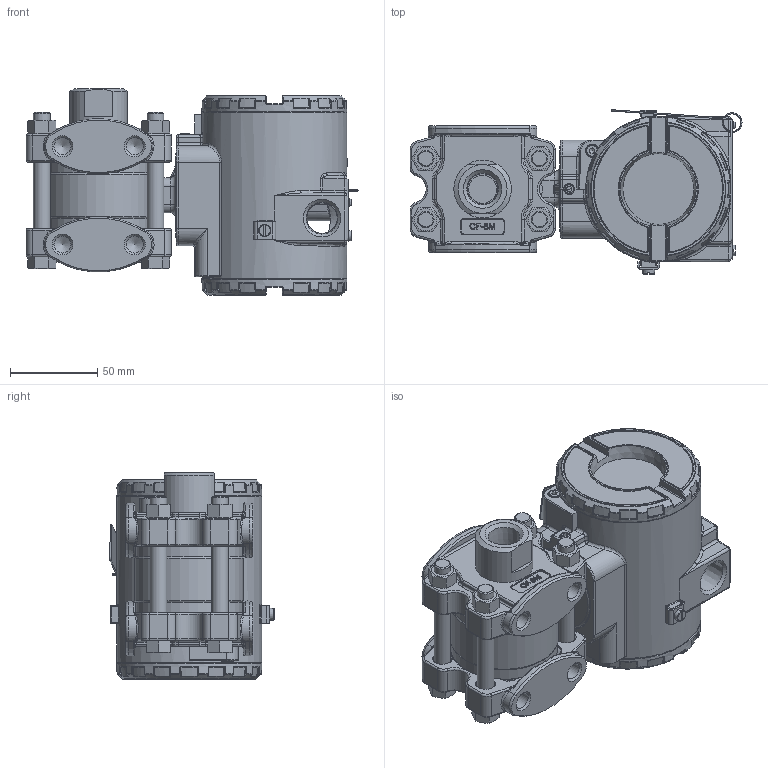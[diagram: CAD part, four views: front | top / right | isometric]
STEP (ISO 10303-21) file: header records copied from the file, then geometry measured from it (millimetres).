
FILE_DESCRIPTION(/* description */ (''),/* implementation_level */ '2;1');
FILE_NAME(/* name */ 'F:\Area\Desenvolvimento_2\Projects\Sensor\projetos\LD30X\montagens 3d - clientes\LD30XM4 1-2NPT Kynar.stp',/* time_stamp */ '2023-01-27T10:02:48-03:00',/* author */ ('inventor02'),/* organization */ (''),/* preprocessor_version */ 'ST-DEVELOPER v17',/* originating_system */ 'Autodesk Inventor 2019',/* authorisation */ '');
FILE_SCHEMA (('CONFIG_CONTROL_DESIGN'));
Length unit declared in the file: millimetre
Products named in the file (31): LD30XM4 1-2NPT Kynar; manometrico fx4 kynar; involucro fx4 apos a usinagem final; 101-b-2616 - kynar 1-2NPT; 096-C-0116-03; 096-B-0117-06; ISO 8752 - 3 x 14  A; 096-C-0014-13 manom reforçado; Paraf. 3-8 x 16 UNC; Porca 3-8 x 16 UNC; carcaça vazia com tampas e plaqueta; carcaça LD inox sem letras; Subconjunto plaqueta 300; Plaqueta transmissor; Parafuso da Plaqueta; Rebite da Plaqueta; 096-A-0169-03; 101-A-0502-01; Chapa aterramento externo; ISO 1207 - M4 x 8; DIN 915 - M6 x 10; ANSI B18.3.1M - M4x0,7 x 8; Subconjunto tampa com visor aluminio; tampa pintada; VIDRO DO VISOR; oring 41x1 vidro tampa; Trava do vidro da tampa com visor; trava do vidro VH256; Subconjunto tampa sem visor-aluminio; tampa cega 300 pintada p0; 00034775-0
Assembly tree (38 placements, depth 4):
  LD30XM4 1-2NPT Kynar
    manometrico fx4 kynar
      involucro fx4 apos a usinagem final
      101-b-2616 - kynar 1-2NPT
        096-C-0116-03
        096-B-0117-06
        ISO 8752 - 3 x 14  A
      096-C-0014-13 manom reforçado
      Paraf. 3-8 x 16 UNC  x4
      Porca 3-8 x 16 UNC  x4
    carcaça vazia com tampas e plaqueta
      carcaça LD inox sem letras
      Subconjunto plaqueta 300
        Plaqueta transmissor
        Parafuso da Plaqueta
        Rebite da Plaqueta
        096-A-0169-03
        101-A-0502-01
      Chapa aterramento externo
      ISO 1207 - M4 x 8
      DIN 915 - M6 x 10
      ANSI B18.3.1M - M4x0,7 x 8  x2
      Subconjunto tampa com visor aluminio
        tampa pintada
        VIDRO DO VISOR
        oring 41x1 vidro tampa
        Trava do vidro da tampa com visor
        trava do vidro VH256
        00034775-0
      Subconjunto tampa sem visor-aluminio
        tampa cega 300 pintada p0
        00034775-0
Bounding box: 189.8 x 93.95 x 117.88 mm (x, y, z)
Volume: 612065.5 mm3; surface area: 234852.6 mm2
Topology: 32 solids, 32 shells, 2462 faces, 5972 edges, 3547 vertices
Faces by surface type: bspline 611, cylinder 602, plane 513, torus 437, cone 188, sphere 111
Full cylindrical faces by diameter (mm): 2 x2, 2.1 x2, 2.459 x5, 2.642 x1, 2.7 x1, 3 x3, 3.242 x4, 3.5 x4, 3.571 x1, 4 x4, 4.3 x1, 4.4 x1, 4.917 x1, 6 x2, 7 x4, 7.087 x2, 7.6 x2, 7.798 x4, 8.7 x2, 9.525 x4, 9.728 x6, 10.5 x8, 14 x1, 17.475 x3, 32.9 x2, 34.6 x1, 36 x1, 40.5 x1, 42 x1, 42.6 x1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
Entity records: 87732 total; most frequent: CARTESIAN_POINT 33570, ORIENTED_EDGE 11358, DIRECTION 10886, EDGE_CURVE 5679, AXIS2_PLACEMENT_3D 4724, VERTEX_POINT 3413, CIRCLE 2762, EDGE_LOOP 2482
